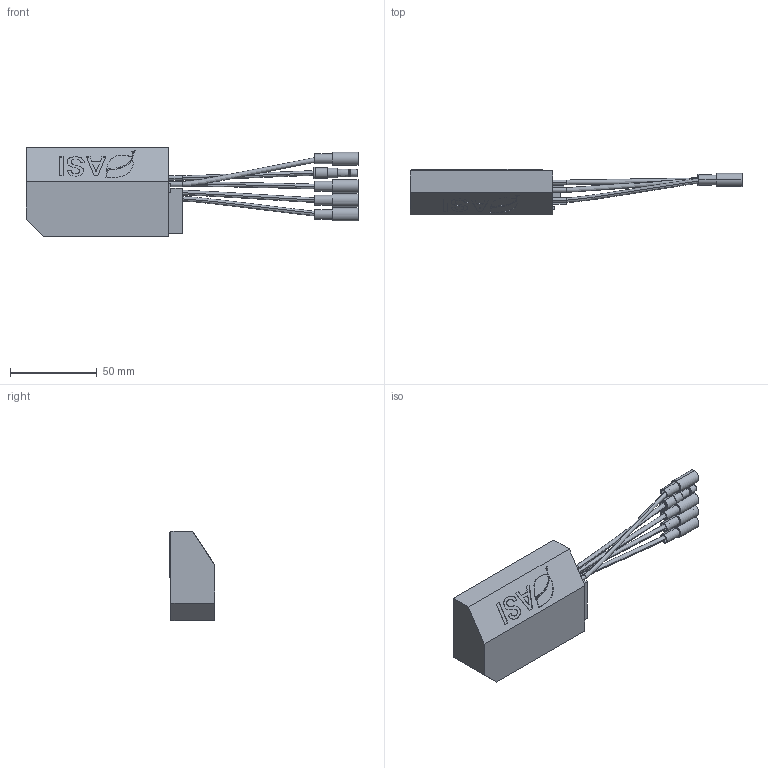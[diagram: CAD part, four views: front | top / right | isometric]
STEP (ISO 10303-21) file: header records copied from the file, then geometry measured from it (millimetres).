
FILE_DESCRIPTION (( 'STEP AP214' ), '1' );
FILE_NAME ('06-000106-D-01 - BAC 355 & 555 CONTROLLER.STEP', '2024-10-30T15:34:29', ( '' ), ( '' ), 'SwSTEP 2.0', 'SolidWorks 2021', '' );
FILE_SCHEMA (( 'AUTOMOTIVE_DESIGN' ));
Length unit declared in the file: millimetre
Products named in the file (1): 06-000106-D-01 - BAC 355 & 555 CONTROLLER
Bounding box: 191.01 x 26.25 x 51.5 mm (x, y, z)
Volume: 101483.1 mm3; surface area: 34581.5 mm2
Topology: 15 solids, 15 shells, 867 faces, 2237 edges, 1482 vertices
Faces by surface type: plane 690, cylinder 134, torus 24, bspline 15, cone 4
Entity records: 39093 total; most frequent: CARTESIAN_POINT 7891, ORIENTED_EDGE 4474, DIRECTION 4273, EDGE_CURVE 2237, LINE 1871, VECTOR 1871, VERTEX_POINT 1482, AXIS2_PLACEMENT_3D 1201
